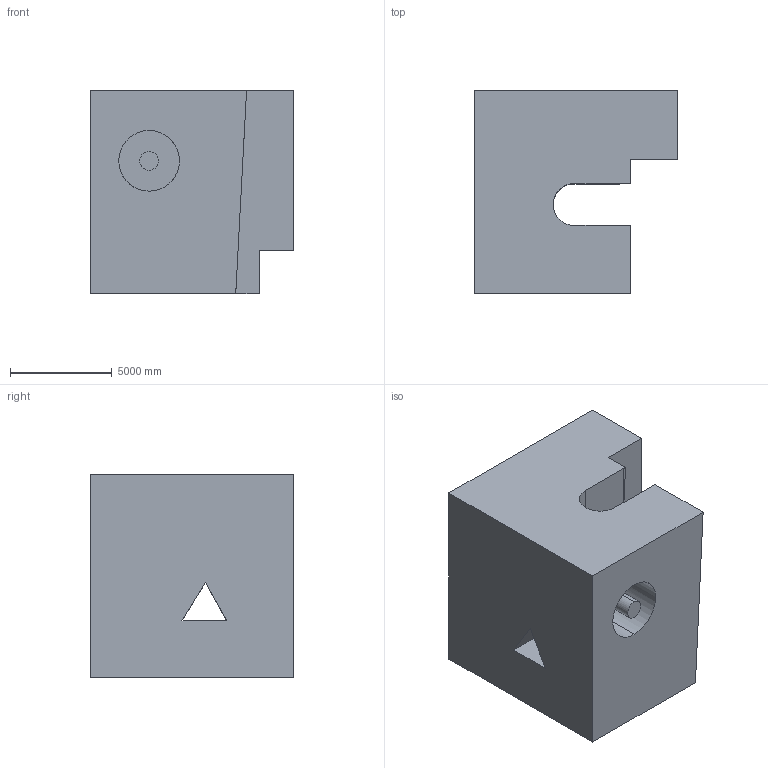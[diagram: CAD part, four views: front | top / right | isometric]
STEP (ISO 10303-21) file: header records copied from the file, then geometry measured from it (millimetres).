
FILE_DESCRIPTION (( 'STEP AP203' ), '1' );
FILE_NAME ('1637.STEP', '2022-08-25T15:18:33', ( 'user' ), ( '' ), 'SwSTEP 2.0', 'SolidWorks 2021', '' );
FILE_SCHEMA (( 'CONFIG_CONTROL_DESIGN' ));
Length unit declared in the file: centimetre
Products named in the file (1): 1637
Bounding box: 10000 x 10000 x 10000 mm (x, y, z)
Volume: 684331286386.9 mm3; surface area: 728891918.7 mm2
Topology: 1 solids, 1 shells, 42 faces, 125 edges, 84 vertices
Faces by surface type: plane 34, cylinder 8
Entity records: 1816 total; most frequent: CARTESIAN_POINT 604, ORIENTED_EDGE 250, DIRECTION 215, EDGE_CURVE 125, LINE 101, VECTOR 101, VERTEX_POINT 84, AXIS2_PLACEMENT_3D 57
